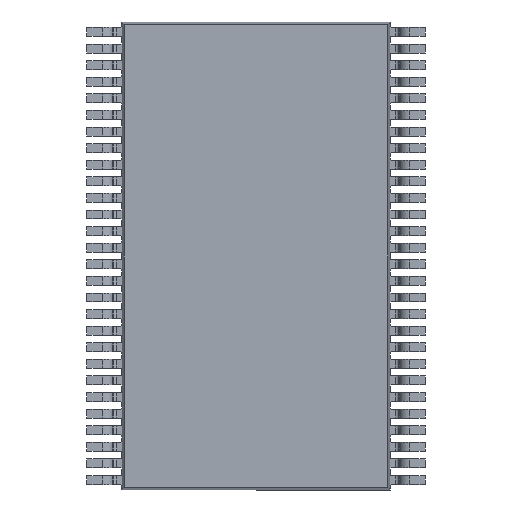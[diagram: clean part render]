
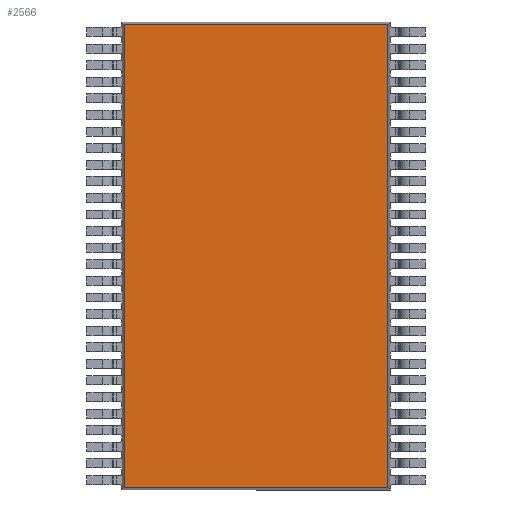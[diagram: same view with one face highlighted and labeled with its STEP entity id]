
A CAD part, front view. The second image highlights one B-rep face of the part: STEP entity #2566.
In plain terms, the highlighted planar face has unit normal (0, -1, 0).
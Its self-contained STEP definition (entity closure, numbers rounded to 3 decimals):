
#2566 = ADVANCED_FACE ( 'NONE', ( #16760 ), #20367, .F. ) ;
#2904 = EDGE_CURVE ( 'NONE', #34236, #34242, #14921, .T. ) ;
#2909 = EDGE_CURVE ( 'NONE', #34206, #34532, #15061, .T. ) ;
#3051 = EDGE_CURVE ( 'NONE', #34532, #34236, #14486, .T. ) ;
#3053 = EDGE_CURVE ( 'NONE', #34242, #34206, #14706, .T. ) ;
#14486 = LINE ( 'NONE', #26671, #14708 ) ;
#14706 = LINE ( 'NONE', #26700, #14753 ) ;
#14708 = VECTOR ( 'NONE', #26697, 1000. ) ;
#14753 = VECTOR ( 'NONE', #26701, 1000. ) ;
#14921 = LINE ( 'NONE', #26356, #15088 ) ;
#14950 = VECTOR ( 'NONE', #26388, 1000. ) ;
#15061 = LINE ( 'NONE', #26382, #14950 ) ;
#15088 = VECTOR ( 'NONE', #26378, 1000. ) ;
#15773 = AXIS2_PLACEMENT_3D ( 'NONE', #20364, #20368, #20369 ) ;
#16760 = FACE_OUTER_BOUND ( 'NONE', #30934, .T. ) ;
#20364 = CARTESIAN_POINT ( 'NONE',  ( 0., 0.1, 0. ) ) ;
#20367 = PLANE ( 'NONE',  #15773 ) ;
#20368 = DIRECTION ( 'NONE',  ( 0., 1., 0. ) ) ;
#20369 = DIRECTION ( 'NONE',  ( 0., 0., 1. ) ) ;
#22481 = CARTESIAN_POINT ( 'NONE',  ( 3.966, 0.1, -6.966 ) ) ;
#24004 = CARTESIAN_POINT ( 'NONE',  ( -3.966, 0.1, -6.966 ) ) ;
#24021 = CARTESIAN_POINT ( 'NONE',  ( 3.966, 0.1, 6.966 ) ) ;
#24026 = CARTESIAN_POINT ( 'NONE',  ( -3.966, 0.1, 6.966 ) ) ;
#26356 = CARTESIAN_POINT ( 'NONE',  ( 4.05, 0.1, 6.966 ) ) ;
#26378 = DIRECTION ( 'NONE',  ( -1., 0., 0. ) ) ;
#26382 = CARTESIAN_POINT ( 'NONE',  ( 4.05, 0.1, -6.966 ) ) ;
#26388 = DIRECTION ( 'NONE',  ( 1., 0., 0. ) ) ;
#26671 = CARTESIAN_POINT ( 'NONE',  ( 3.966, 0.1, 7.05 ) ) ;
#26697 = DIRECTION ( 'NONE',  ( 0., 0., 1. ) ) ;
#26700 = CARTESIAN_POINT ( 'NONE',  ( -3.966, 0.1, 7.05 ) ) ;
#26701 = DIRECTION ( 'NONE',  ( 0., 0., -1. ) ) ;
#30228 = ORIENTED_EDGE ( 'NONE', *, *, #3053, .T. ) ;
#30229 = ORIENTED_EDGE ( 'NONE', *, *, #2909, .T. ) ;
#30230 = ORIENTED_EDGE ( 'NONE', *, *, #2904, .T. ) ;
#30231 = ORIENTED_EDGE ( 'NONE', *, *, #3051, .T. ) ;
#30934 = EDGE_LOOP ( 'NONE', ( #30228, #30229, #30231, #30230 ) ) ;
#34206 = VERTEX_POINT ( 'NONE', #24004 ) ;
#34236 = VERTEX_POINT ( 'NONE', #24021 ) ;
#34242 = VERTEX_POINT ( 'NONE', #24026 ) ;
#34532 = VERTEX_POINT ( 'NONE', #22481 ) ;
